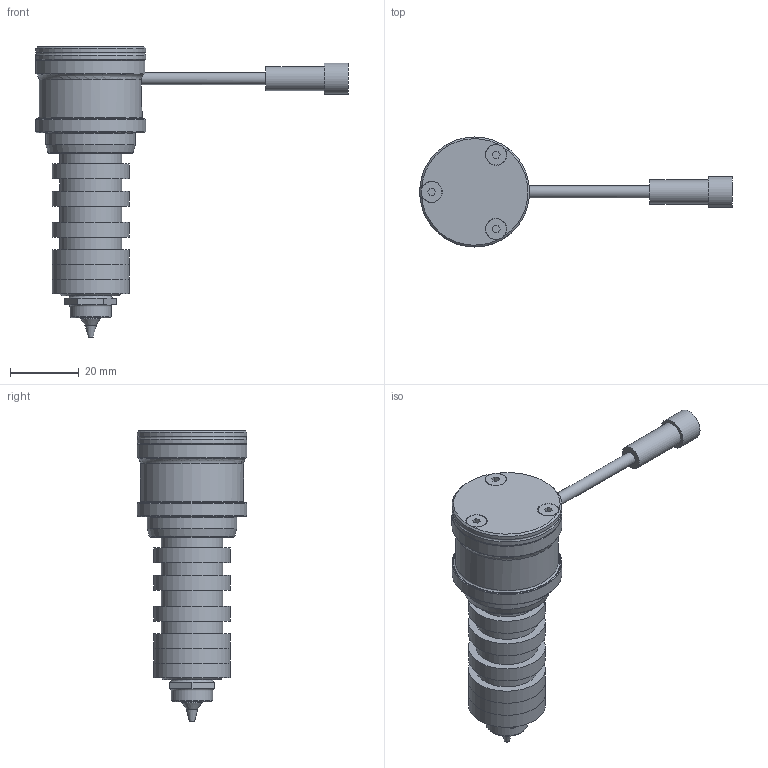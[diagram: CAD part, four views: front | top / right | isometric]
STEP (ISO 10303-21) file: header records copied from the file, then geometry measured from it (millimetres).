
FILE_DESCRIPTION(('STEP AP214'),'1');
FILE_NAME('FLM3-A.stp','2018-06-12T08:53:03',(' '),(' '),'Spatial InterOp 3D',' ',' ');
FILE_SCHEMA(('AUTOMOTIVE_DESIGN { 1 0 10303 214 1 1 1 1 }'));
Length unit declared in the file: millimetre
Products named in the file (1): 1
Bounding box: 91 x 32 x 84.52 mm (x, y, z)
Volume: 36643.7 mm3; surface area: 15491.3 mm2
Topology: 5 solids, 5 shells, 146 faces, 337 edges, 211 vertices
Faces by surface type: plane 73, cylinder 38, cone 23, torus 9, revolution 3
Full cylindrical faces by diameter (mm): 2.5 x3, 3 x3, 3.4 x3, 3.5 x1, 6 x1, 7 x1, 9 x1, 18 x5, 22.4 x10, 23 x1, 26 x1, 30 x1, 32 x3
Entity records: 5026 total; most frequent: CARTESIAN_POINT 864, DIRECTION 642, ORIENTED_EDGE 492, AXIS2_PLACEMENT_3D 267, EDGE_CURVE 246, EDGE_LOOP 235, FACE_OUTER_BOUND 190, VERTEX_POINT 188
